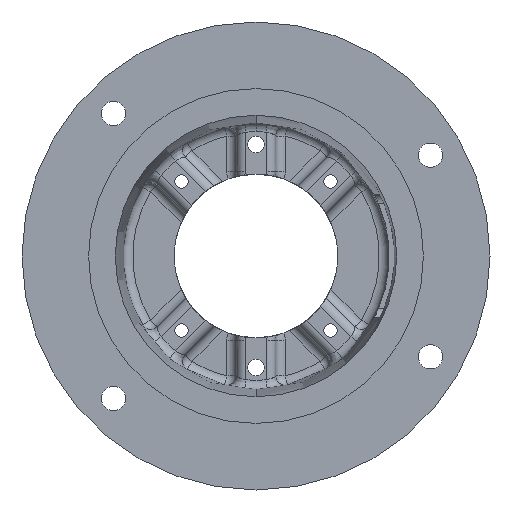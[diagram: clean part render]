
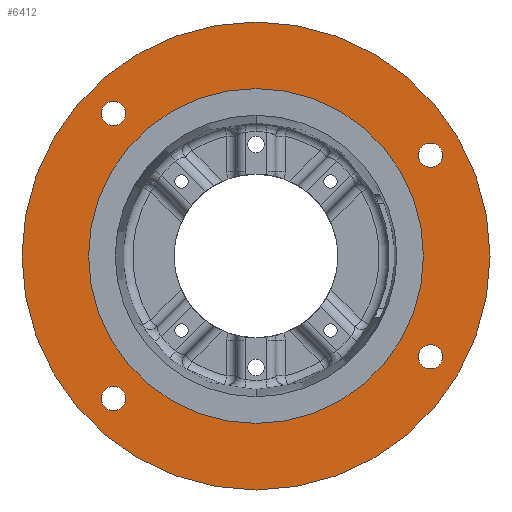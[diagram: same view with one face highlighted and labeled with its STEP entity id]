
A CAD part, front view. The second image highlights one B-rep face of the part: STEP entity #6412.
In plain terms, the highlighted planar face has unit normal (0, -1, 0).
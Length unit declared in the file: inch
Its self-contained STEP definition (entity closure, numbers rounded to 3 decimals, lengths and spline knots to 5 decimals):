
#36 = CIRCLE ( 'NONE', #2743, 0.23437 ) ;
#149 = EDGE_LOOP ( 'NONE', ( #1963, #4354 ) ) ;
#178 = ORIENTED_EDGE ( 'NONE', *, *, #4765, .F. ) ;
#233 = CIRCLE ( 'NONE', #4701, 0.23438 ) ;
#325 = CIRCLE ( 'NONE', #5851, 4.5 ) ;
#386 = DIRECTION ( 'NONE',  ( 0., -1., 0. ) ) ;
#422 = ORIENTED_EDGE ( 'NONE', *, *, #2662, .F. ) ;
#461 = VERTEX_POINT ( 'NONE', #6433 ) ;
#480 = AXIS2_PLACEMENT_3D ( 'NONE', #5110, #5089, #5072 ) ;
#570 = CIRCLE ( 'NONE', #5598, 0.23438 ) ;
#717 = CARTESIAN_POINT ( 'NONE',  ( -2.74004, 0., -2.74004 ) ) ;
#730 = FACE_BOUND ( 'NONE', #2831, .T. ) ;
#745 = CARTESIAN_POINT ( 'NONE',  ( 0., 0., 3.2195 ) ) ;
#915 = CIRCLE ( 'NONE', #2147, 4.5 ) ;
#951 = DIRECTION ( 'NONE',  ( 0., 1., 0. ) ) ;
#1089 = AXIS2_PLACEMENT_3D ( 'NONE', #3507, #386, #3978 ) ;
#1171 = AXIS2_PLACEMENT_3D ( 'NONE', #1770, #1743, #1718 ) ;
#1231 = CARTESIAN_POINT ( 'NONE',  ( -2.74004, 0., 2.50566 ) ) ;
#1283 = EDGE_LOOP ( 'NONE', ( #422, #4726 ) ) ;
#1387 = VERTEX_POINT ( 'NONE', #1231 ) ;
#1443 = CIRCLE ( 'NONE', #6253, 0.23438 ) ;
#1454 = EDGE_LOOP ( 'NONE', ( #4899, #1951 ) ) ;
#1621 = CARTESIAN_POINT ( 'NONE',  ( 3.35585, 0., -1.9375 ) ) ;
#1653 = DIRECTION ( 'NONE',  ( 0., -1., 0. ) ) ;
#1702 = DIRECTION ( 'NONE',  ( 0., 0., -1. ) ) ;
#1718 = DIRECTION ( 'NONE',  ( 0., 0., -1. ) ) ;
#1743 = DIRECTION ( 'NONE',  ( 0., -1., 0. ) ) ;
#1770 = CARTESIAN_POINT ( 'NONE',  ( -2.74004, 0., 2.74004 ) ) ;
#1788 = EDGE_CURVE ( 'NONE', #2972, #6206, #325, .T. ) ;
#1951 = ORIENTED_EDGE ( 'NONE', *, *, #6409, .F. ) ;
#1963 = ORIENTED_EDGE ( 'NONE', *, *, #3249, .T. ) ;
#2011 = CIRCLE ( 'NONE', #5139, 0.23438 ) ;
#2096 = CARTESIAN_POINT ( 'NONE',  ( 3.35585, 0., -1.70312 ) ) ;
#2119 = DIRECTION ( 'NONE',  ( 0., 0., -1. ) ) ;
#2124 = CARTESIAN_POINT ( 'NONE',  ( 3.35585, 0., 1.9375 ) ) ;
#2130 = DIRECTION ( 'NONE',  ( 0., -1., 0. ) ) ;
#2147 = AXIS2_PLACEMENT_3D ( 'NONE', #2769, #2734, #2725 ) ;
#2148 = CARTESIAN_POINT ( 'NONE',  ( 0., 0., 0. ) ) ;
#2158 = CIRCLE ( 'NONE', #1089, 0.23438 ) ;
#2173 = DIRECTION ( 'NONE',  ( 0., 0., -1. ) ) ;
#2211 = DIRECTION ( 'NONE',  ( 0., -1., 0. ) ) ;
#2324 = DIRECTION ( 'NONE',  ( 0., 0., -1. ) ) ;
#2392 = DIRECTION ( 'NONE',  ( 0., 0., -1. ) ) ;
#2413 = DIRECTION ( 'NONE',  ( 0., -1., 0. ) ) ;
#2499 = EDGE_CURVE ( 'NONE', #4918, #461, #1443, .T. ) ;
#2531 = EDGE_CURVE ( 'NONE', #4818, #4108, #5085, .T. ) ;
#2591 = CARTESIAN_POINT ( 'NONE',  ( 3.35585, 0., -2.17187 ) ) ;
#2662 = EDGE_CURVE ( 'NONE', #3300, #3907, #2011, .T. ) ;
#2725 = DIRECTION ( 'NONE',  ( 0., 0., -1. ) ) ;
#2734 = DIRECTION ( 'NONE',  ( 0., -1., 0. ) ) ;
#2743 = AXIS2_PLACEMENT_3D ( 'NONE', #5723, #5645, #5637 ) ;
#2769 = CARTESIAN_POINT ( 'NONE',  ( 0., 0., 0. ) ) ;
#2785 = EDGE_CURVE ( 'NONE', #6013, #4744, #36, .T. ) ;
#2825 = EDGE_CURVE ( 'NONE', #1387, #6479, #233, .T. ) ;
#2831 = EDGE_LOOP ( 'NONE', ( #3471, #178 ) ) ;
#2972 = VERTEX_POINT ( 'NONE', #5848 ) ;
#3022 = EDGE_CURVE ( 'NONE', #4108, #4818, #5403, .T. ) ;
#3176 = CARTESIAN_POINT ( 'NONE',  ( -2.74004, 0., -2.97441 ) ) ;
#3249 = EDGE_CURVE ( 'NONE', #6206, #2972, #915, .T. ) ;
#3300 = VERTEX_POINT ( 'NONE', #2591 ) ;
#3327 = FACE_OUTER_BOUND ( 'NONE', #149, .T. ) ;
#3464 = PLANE ( 'NONE',  #3488 ) ;
#3471 = ORIENTED_EDGE ( 'NONE', *, *, #2785, .F. ) ;
#3483 = FACE_BOUND ( 'NONE', #1454, .T. ) ;
#3488 = AXIS2_PLACEMENT_3D ( 'NONE', #6424, #951, #4485 ) ;
#3507 = CARTESIAN_POINT ( 'NONE',  ( 3.35585, 0., 1.9375 ) ) ;
#3628 = FACE_BOUND ( 'NONE', #1283, .T. ) ;
#3802 = EDGE_LOOP ( 'NONE', ( #3902, #5942 ) ) ;
#3901 = EDGE_CURVE ( 'NONE', #6479, #1387, #6385, .T. ) ;
#3902 = ORIENTED_EDGE ( 'NONE', *, *, #3022, .F. ) ;
#3907 = VERTEX_POINT ( 'NONE', #2096 ) ;
#3978 = DIRECTION ( 'NONE',  ( 0., 0., -1. ) ) ;
#4013 = DIRECTION ( 'NONE',  ( 0., -1., 0. ) ) ;
#4108 = VERTEX_POINT ( 'NONE', #4966 ) ;
#4253 = DIRECTION ( 'NONE',  ( 0., 0., -1. ) ) ;
#4334 = CARTESIAN_POINT ( 'NONE',  ( -2.74004, 0., -2.50566 ) ) ;
#4340 = DIRECTION ( 'NONE',  ( 0., -1., 0. ) ) ;
#4354 = ORIENTED_EDGE ( 'NONE', *, *, #1788, .T. ) ;
#4368 = CARTESIAN_POINT ( 'NONE',  ( -2.74004, 0., 2.74004 ) ) ;
#4408 = ORIENTED_EDGE ( 'NONE', *, *, #2825, .F. ) ;
#4464 = CIRCLE ( 'NONE', #4839, 0.23437 ) ;
#4485 = DIRECTION ( 'NONE',  ( 0., 0., 1. ) ) ;
#4624 = FACE_BOUND ( 'NONE', #3802, .T. ) ;
#4701 = AXIS2_PLACEMENT_3D ( 'NONE', #4368, #4340, #4253 ) ;
#4726 = ORIENTED_EDGE ( 'NONE', *, *, #5427, .F. ) ;
#4744 = VERTEX_POINT ( 'NONE', #4334 ) ;
#4765 = EDGE_CURVE ( 'NONE', #4744, #6013, #4464, .T. ) ;
#4818 = VERTEX_POINT ( 'NONE', #745 ) ;
#4839 = AXIS2_PLACEMENT_3D ( 'NONE', #717, #2413, #2392 ) ;
#4899 = ORIENTED_EDGE ( 'NONE', *, *, #2499, .F. ) ;
#4918 = VERTEX_POINT ( 'NONE', #6358 ) ;
#4966 = CARTESIAN_POINT ( 'NONE',  ( 0., 0., -3.2195 ) ) ;
#5034 = CARTESIAN_POINT ( 'NONE',  ( -2.74004, 0., 2.97441 ) ) ;
#5072 = DIRECTION ( 'NONE',  ( 0., 0., -1. ) ) ;
#5085 = CIRCLE ( 'NONE', #6561, 3.2195 ) ;
#5089 = DIRECTION ( 'NONE',  ( 0., -1., 0. ) ) ;
#5097 = EDGE_LOOP ( 'NONE', ( #4408, #5762 ) ) ;
#5110 = CARTESIAN_POINT ( 'NONE',  ( 0., 0., 0. ) ) ;
#5139 = AXIS2_PLACEMENT_3D ( 'NONE', #1621, #1653, #1702 ) ;
#5226 = CARTESIAN_POINT ( 'NONE',  ( 3.35585, 0., -1.9375 ) ) ;
#5403 = CIRCLE ( 'NONE', #480, 3.2195 ) ;
#5427 = EDGE_CURVE ( 'NONE', #3907, #3300, #570, .T. ) ;
#5598 = AXIS2_PLACEMENT_3D ( 'NONE', #5226, #4013, #2324 ) ;
#5637 = DIRECTION ( 'NONE',  ( 0., 0., -1. ) ) ;
#5645 = DIRECTION ( 'NONE',  ( 0., -1., 0. ) ) ;
#5723 = CARTESIAN_POINT ( 'NONE',  ( -2.74004, 0., -2.74004 ) ) ;
#5738 = DIRECTION ( 'NONE',  ( 0., 0., -1. ) ) ;
#5743 = DIRECTION ( 'NONE',  ( 0., -1., 0. ) ) ;
#5744 = CARTESIAN_POINT ( 'NONE',  ( 0., 0., 0. ) ) ;
#5762 = ORIENTED_EDGE ( 'NONE', *, *, #3901, .F. ) ;
#5815 = CARTESIAN_POINT ( 'NONE',  ( 0., 0., -4.5 ) ) ;
#5848 = CARTESIAN_POINT ( 'NONE',  ( 0., 0., 4.5 ) ) ;
#5851 = AXIS2_PLACEMENT_3D ( 'NONE', #5744, #5743, #5738 ) ;
#5917 = FACE_BOUND ( 'NONE', #5097, .T. ) ;
#5942 = ORIENTED_EDGE ( 'NONE', *, *, #2531, .F. ) ;
#6013 = VERTEX_POINT ( 'NONE', #3176 ) ;
#6206 = VERTEX_POINT ( 'NONE', #5815 ) ;
#6253 = AXIS2_PLACEMENT_3D ( 'NONE', #2124, #2130, #2119 ) ;
#6358 = CARTESIAN_POINT ( 'NONE',  ( 3.35585, 0., 1.70313 ) ) ;
#6385 = CIRCLE ( 'NONE', #1171, 0.23438 ) ;
#6409 = EDGE_CURVE ( 'NONE', #461, #4918, #2158, .T. ) ;
#6412 = ADVANCED_FACE ( 'NONE', ( #3483, #3628, #730, #5917, #4624, #3327 ), #3464, .F. ) ;
#6424 = CARTESIAN_POINT ( 'NONE',  ( -4.5, 0., 0. ) ) ;
#6433 = CARTESIAN_POINT ( 'NONE',  ( 3.35585, 0., 2.17188 ) ) ;
#6479 = VERTEX_POINT ( 'NONE', #5034 ) ;
#6561 = AXIS2_PLACEMENT_3D ( 'NONE', #2148, #2211, #2173 ) ;
